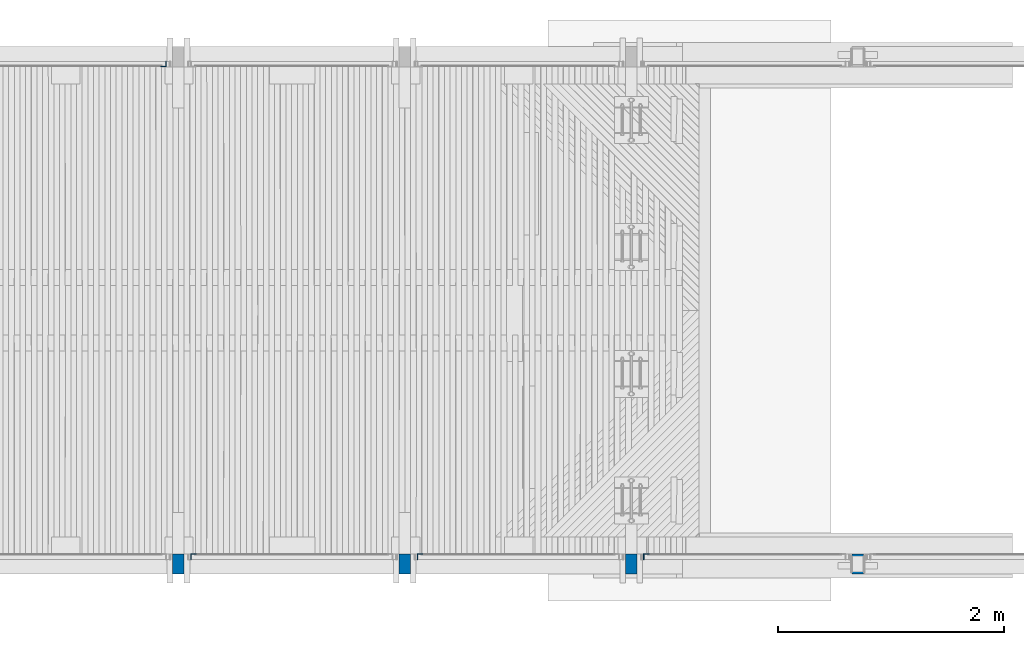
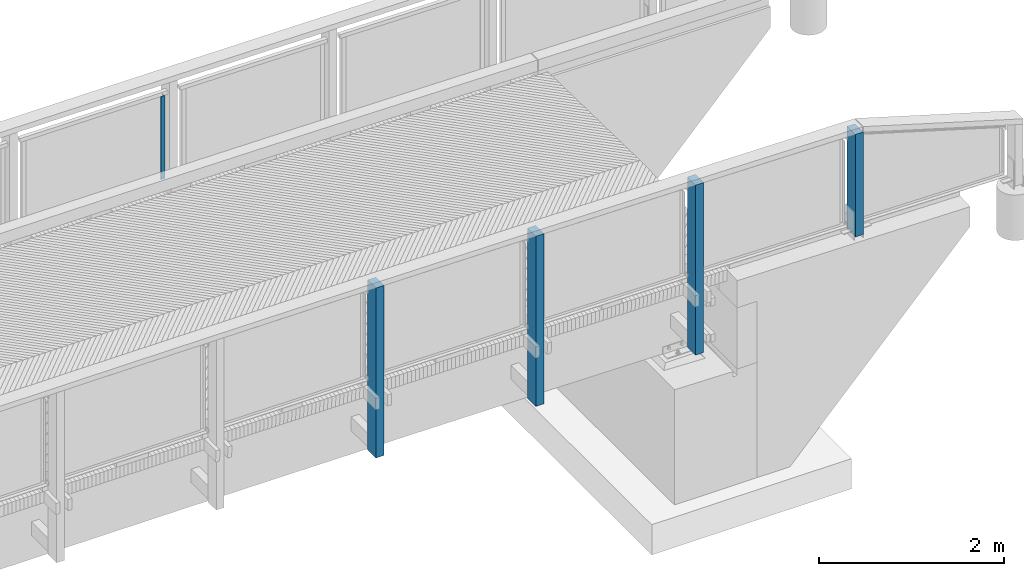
# One storey, part 10 of 65: 8 columns.
"""IFC2X3 building model written with IfcOpenShell, lengths in millimetres."""

import ifcopenshell
import ifcopenshell.guid

model = None  # the IFC model being written
_history = None  # IfcOwnerHistory: only IFC2X3 demands one
_inside = {}  # id of a spatial element -> (the spatial element, [elements in it])
_under = {}  # id of a project, library or spatial element -> (it, [spatial elements below it])
_declared = {}  # id of a project -> (the project, [libraries it declares])
_typed = {}  # id of a type object -> (the type object, [elements of that type])
_made_of = {}  # id of a material, layer set ... -> (it, [elements and type objects made of it])


def new_model(schema):
    """Start an empty IFC model of exactly this schema.

    Asked for "IFC4X3", IfcOpenShell would pick the latest addendum, in which some entities
    have other attributes; the version numbers below select the first issue.
    IFC2X3 requires an IfcOwnerHistory on every rooted entity: one is made here for all.
    """
    global model, _history
    if schema == "IFC4X3":
        model = ifcopenshell.file(schema_version=(4, 3, 0, 0))
    else:
        model = ifcopenshell.file(schema=schema)
    _inside.clear()
    _under.clear()
    _declared.clear()
    _typed.clear()
    _made_of.clear()
    _history = None
    if model.schema == "IFC2X3":
        org = make("IfcOrganization", Name="unknown")
        user = make(
            "IfcPersonAndOrganization",
            ThePerson=make("IfcPerson", FamilyName="unknown"),
            TheOrganization=org,
        )
        app = make(
            "IfcApplication",
            ApplicationDeveloper=org,
            Version="unknown",
            ApplicationFullName="unknown",
            ApplicationIdentifier="unknown",
        )
        _history = make(
            "IfcOwnerHistory",
            OwningUser=user,
            OwningApplication=app,
            ChangeAction="ADDED",
            CreationDate=0,
        )
    return model


def make(cls, **values):
    """One entity of the class cls with the attributes given. An attribute that is None is left unset."""
    return model.create_entity(
        cls, **{name: value for name, value in values.items() if value is not None}
    )


def rooted(cls, **values):
    """An entity with a GlobalId (a new one), such as an element, a storey or a relation."""
    return make(cls, GlobalId=ifcopenshell.guid.new(), OwnerHistory=_history, **values)


def si_unit(unit_type, name, prefix=None):
    """IfcSIUnit, for example si_unit("LENGTHUNIT", "METRE", prefix="MILLI")."""
    return make("IfcSIUnit", UnitType=unit_type, Prefix=prefix, Name=name)


def assignment(units):
    """IfcUnitAssignment: the units of a project."""
    return None if units is None else make("IfcUnitAssignment", Units=units)


def point(xyz):
    """IfcCartesianPoint."""
    return None if xyz is None else make("IfcCartesianPoint", Coordinates=xyz)


def direction(xyz):
    """IfcDirection."""
    return None if xyz is None else make("IfcDirection", DirectionRatios=xyz)


def frame(location, z_axis=None, x_axis=None):
    """IfcAxis2Placement3D, a coordinate frame: its origin and axes. An axis left out is left unset."""
    return make(
        "IfcAxis2Placement3D",
        Location=point(location),
        Axis=direction(z_axis),
        RefDirection=direction(x_axis),
    )


def origin_with_axes():
    """The frame at (0, 0, 0) with the z axis (0, 0, 1) and the x axis (1, 0, 0) written out."""
    return frame((0.0, 0.0, 0.0), z_axis=(0.0, 0.0, 1.0), x_axis=(1.0, 0.0, 0.0))


def place(relative_to, where):
    """IfcLocalPlacement: puts the frame where relative to a parent placement (None: the world)."""
    return make(
        "IfcLocalPlacement", PlacementRelTo=relative_to, RelativePlacement=where
    )


def context(
    kind, dimensions, precision=None, world=None, true_north=None, identifier=None
):
    """IfcGeometricRepresentationContext, for example the 3D "Model" context."""
    return make(
        "IfcGeometricRepresentationContext",
        ContextIdentifier=identifier,
        ContextType=kind,
        CoordinateSpaceDimension=dimensions,
        Precision=precision,
        WorldCoordinateSystem=world,
        TrueNorth=true_north,
    )


def subcontext(parent, identifier, kind, view, scale=None):
    """IfcGeometricRepresentationSubContext, for example "Body" below "Model"."""
    return make(
        "IfcGeometricRepresentationSubContext",
        ContextIdentifier=identifier,
        ContextType=kind,
        ParentContext=parent,
        TargetScale=scale,
        TargetView=view,
    )


def project(units=None, contexts=None):
    """IfcProject with its units and contexts."""
    return rooted(
        "IfcProject",
        Name="project",
        RepresentationContexts=contexts,
        UnitsInContext=assignment(units),
    )


def spatial(cls, under=None, at=None, **own):
    """A site, building, storey or space (cls), placed at a placement, below another one or the project."""
    s = rooted(cls, ObjectPlacement=at, **own)
    if under is not None:
        _under.setdefault(under.id(), (under, []))[1].append(s)
    return s


def faces_of(points, faces, orient=None, outer=None):
    """IfcFace entities. A face is a list of loops; a loop is a list of indices into points, from 0.

    orient and outer hold one flag for each loop. By default every Orientation is true, the
    first loop of a face is its IfcFaceOuterBound and the others are IfcFaceBound.
    """
    made = []
    for i, loops in enumerate(faces):
        bounds = []
        for j, loop in enumerate(loops):
            is_outer = j == 0 if outer is None else outer[i][j]
            bounds.append(
                make(
                    "IfcFaceOuterBound" if is_outer else "IfcFaceBound",
                    Bound=make("IfcPolyLoop", Polygon=[points[k] for k in loop]),
                    Orientation=True if orient is None else orient[i][j],
                )
            )
        made.append(make("IfcFace", Bounds=bounds))
    return made


def faceted_brep(points, faces, orient=None, outer=None, voids=None):
    """IfcFacetedBrep: a solid bounded by flat faces; with voids (closed shells), ...WithVoids."""
    shared = [point(p) for p in points]
    hull = make("IfcClosedShell", CfsFaces=faces_of(shared, faces, orient, outer))
    if voids is None:
        return make("IfcFacetedBrep", Outer=hull)
    return make(
        "IfcFacetedBrepWithVoids",
        Outer=hull,
        Voids=[
            make(cls, CfsFaces=faces_of(shared, fs, o, b)) for cls, fs, o, b in voids
        ],
    )


def shape(context_of_items, identifier, shape_type, items):
    """IfcShapeRepresentation: the items that make up one representation, for example the "Body"."""
    return make(
        "IfcShapeRepresentation",
        ContextOfItems=context_of_items,
        RepresentationIdentifier=identifier,
        RepresentationType=shape_type,
        Items=items,
    )


def material(Name=None, Category=None):
    """IfcMaterial."""
    return make("IfcMaterial", Name=Name, Category=Category)


def made_of(thing, what):
    """Note that an element or type object is made of a material, layer set ...; save() writes the relation."""
    if what is not None:
        _made_of.setdefault(what.id(), (what, []))[1].append(thing)
    return thing


def type_object(cls, material=None, **own):
    """A type object (cls), such as IfcWallType, which elements share."""
    return made_of(rooted(cls, **own), material)


def element(
    cls,
    number,
    at=None,
    inside=None,
    cuts=None,
    type_object=None,
    material=None,
    context=None,
    identifier="Body",
    shape_type=None,
    held_by="IfcProductDefinitionShape",
    body=None,
    shapes=None,
    **own,
):
    """One element of the class cls, such as IfcWall. Its Tag is "e" and its number.

    at: its placement. inside: the storey or other place that contains it. cuts: it is an
    opening in that element (IfcRelVoidsElement). A single representation is given by context,
    identifier, shape_type and body (its items); several are given by shapes. held_by: the class
    of the entity that holds the representations. save() writes the other relations.
    """
    e = rooted(cls, Tag="e%d" % number, ObjectPlacement=at, **own)
    if body is not None:
        shapes = [shape(context, identifier, shape_type, body)]
    if shapes is not None:
        e.Representation = make(held_by, Representations=shapes)
    if inside is not None:
        _inside.setdefault(inside.id(), (inside, []))[1].append(e)
    if cuts is not None:
        rooted(
            "IfcRelVoidsElement", RelatingBuildingElement=cuts, RelatedOpeningElement=e
        )
    if type_object is not None:
        _typed.setdefault(type_object.id(), (type_object, []))[1].append(e)
    return made_of(e, material)


def aggregate(whole, parts):
    """IfcRelAggregates: a whole, such as a stair, and the parts it consists of."""
    return rooted("IfcRelAggregates", RelatingObject=whole, RelatedObjects=parts)


def save(model, path):
    """Write the relations noted so far, then the file.

    IfcRelAggregates (storeys below a building ...), IfcRelContainedInSpatialStructure (elements
    in a storey), IfcRelDefinesByType, IfcRelAssociatesMaterial and IfcRelDeclares: one each for
    every whole, place, type object, material and project.
    """
    for whole, parts in _under.values():
        aggregate(whole, parts)
    for where, things in _inside.values():
        rooted(
            "IfcRelContainedInSpatialStructure",
            RelatedElements=things,
            RelatingStructure=where,
        )
    for kind, things in _typed.values():
        rooted("IfcRelDefinesByType", RelatedObjects=things, RelatingType=kind)
    for what, things in _made_of.values():
        rooted("IfcRelAssociatesMaterial", RelatedObjects=things, RelatingMaterial=what)
    for by, libraries in _declared.values():
        rooted("IfcRelDeclares", RelatingContext=by, RelatedDefinitions=libraries)
    model.write(path)


model = new_model("IFC2X3")

# Units and contexts
model_context = context("Model", 3, precision=1e-05, world=origin_with_axes())
body_context = subcontext(model_context, "Body", "Model", "MODEL_VIEW")
ifc_project = project(units=[si_unit("LENGTHUNIT", "METRE", prefix="MILLI"), si_unit("AREAUNIT", "SQUARE_METRE"), si_unit("VOLUMEUNIT", "CUBIC_METRE"), si_unit("MASSUNIT", "GRAM", prefix="KILO"), si_unit("TIMEUNIT", "SECOND"), si_unit("PLANEANGLEUNIT", "RADIAN"), si_unit("SOLIDANGLEUNIT", "STERADIAN"), si_unit("THERMODYNAMICTEMPERATUREUNIT", "DEGREE_CELSIUS"), si_unit("LUMINOUSINTENSITYUNIT", "LUMEN")], contexts=[model_context])

# Site, building, storey
site_placement = place(None, origin_with_axes())
site = spatial("IfcSite", under=ifc_project, at=site_placement, Name="Undefined", CompositionType="ELEMENT")
building_placement = place(site_placement, origin_with_axes())
building = spatial("IfcBuilding", under=site, at=building_placement, Name="Undefined", CompositionType="ELEMENT")
storey_placement = place(building_placement, origin_with_axes())
storey = spatial("IfcBuildingStorey", under=building, at=storey_placement, Name="Undefined", CompositionType="ELEMENT", Elevation=0.0)

# Columns
ifc_material_1 = material(Name="TIMBER/Timber_Undefined")
column_type_1 = type_object("IfcColumnType", Name="180*100", PredefinedType="NOTDEFINED")
column_1_placement = place(storey_placement, frame((17999.9999992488, 20125.0120919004, 3128.38000000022), z_axis=(0.0, 1.0, 0.0), x_axis=(0.0, 0.0, 1.0)))
element("IfcColumn", 1, at=column_1_placement, inside=storey, type_object=column_type_1, material=ifc_material_1, Name="KAIDEPYLVÄS", ObjectType="180*100", context=body_context, shape_type="Brep", body=[
    faceted_brep([(-5.71000000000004, 50.0, -90.0), (-5.71000000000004, 50.0, 90.0), (1351.21940355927, 50.0, 90.0), (1351.21940355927, 50.0, -90.0), (-5.71000000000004, -50.0, 90.0), (1352.87649222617, -50.0, 90.0), (-5.71000000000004, -50.0, -90.0), (1352.87649222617, -50.0, -90.0)], [[[0, 1, 2, 3]], [[1, 4, 5, 2]], [[4, 6, 7, 5]], [[6, 0, 3, 7]], [[5, 7, 3, 2]], [[6, 4, 1, 0]]]),
])
for number, where, z_axis, x_axis in (
    (2, (16000.0000678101, 20125.0120919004, 2260.26004297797), (0.0, 1.0, 0.0), (0.0, 0.0, 1.0)),
    (3, (14000.0000678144, 20125.0120919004, 2283.46176690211), (0.0, 1.0, 0.0), (0.0, 0.0, 1.0)),
    (4, (12000.0000678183, 20125.0120919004, 2300.03388065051), (0.0, 1.0, 0.0), (0.0, 0.0, 1.0)),
):
    element("IfcColumn", number, at=place(storey_placement, frame(where, z_axis=z_axis, x_axis=x_axis)), inside=storey, type_object=column_type_1, material=ifc_material_1, Name="KAIDEPYLVÄS", ObjectType="180*100", context=body_context, shape_type="Brep", body=[
        faceted_brep([(0.0, 50.0, -90.0), (0.0, 50.0, 90.0), (2250.0, 50.0, 90.0), (2250.0, 50.0, -90.0), (0.0, -50.0, 90.0), (2250.0, -50.0, 90.0), (0.0, -50.0, -90.0), (2250.0, -50.0, -90.0)], [[[0, 1, 2, 3]], [[1, 4, 5, 2]], [[4, 6, 7, 5]], [[6, 0, 3, 7]], [[5, 7, 3, 2]], [[6, 4, 1, 0]]]),
    ])
ifc_material_2 = material(Name="STEEL/S235JR")
column_type_2 = type_object("IfcColumnType", Name="L50*5", PredefinedType="NOTDEFINED")
column_2_placement = place(storey_placement, frame((11867.5024948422, 24539.9900000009, 3303.68520742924), z_axis=(0.0, 1.0, 0.0), x_axis=(0.0, 0.0, 1.0)))
element("IfcColumn", 5, at=column_2_placement, inside=storey, type_object=column_type_2, material=ifc_material_2, Name="BEAM", ObjectType="L50*5", context=body_context, shape_type="Brep", body=[
    faceted_brep([(0.0, 25.0, -25.0), (0.0, 25.0, 25.0), (1099.9997751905, 25.0, 25.0), (1099.9997751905, 25.0, -25.0), (0.0, 20.0, 25.0), (1099.9997751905, 20.0, 25.0), (0.0, 20.0, -20.0), (1099.9997751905, 20.0, -20.0), (0.0, -25.0, -20.0), (1099.9997751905, -25.0, -20.0), (0.0, -25.0, -25.0), (1099.9997751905, -25.0, -25.0)], [[[0, 1, 2, 3]], [[1, 4, 5, 2]], [[4, 6, 7, 5]], [[6, 8, 9, 7]], [[8, 10, 11, 9]], [[10, 0, 3, 11]], [[5, 7, 9, 11, 3, 2]], [[10, 8, 6, 4, 1, 0]]]),
])
column_3_placement = place(storey_placement, frame((16132.4988327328, 20190.01, 3261.77031022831), z_axis=(0.0, -1.0, 0.0), x_axis=(0.0, 0.0, 1.0)))
element("IfcColumn", 6, at=column_3_placement, inside=storey, type_object=column_type_2, material=ifc_material_2, Name="BEAM", ObjectType="L50*5", context=body_context, shape_type="Brep", body=[
    faceted_brep([(0.0, 25.0, -25.0), (0.0, 25.0, 25.0), (1099.99179593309, 25.0, 25.0), (1099.99179593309, 25.0, -25.0), (0.0, 20.0, 25.0), (1099.99179593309, 20.0, 25.0), (0.0, 20.0, -20.0), (1099.99179593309, 20.0, -20.0), (0.0, -25.0, -20.0), (1099.99179593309, -25.0, -20.0), (0.0, -25.0, -25.0), (1099.99179593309, -25.0, -25.0)], [[[0, 1, 2, 3]], [[1, 4, 5, 2]], [[4, 6, 7, 5]], [[6, 8, 9, 7]], [[8, 10, 11, 9]], [[10, 0, 3, 11]], [[5, 7, 9, 11, 3, 2]], [[10, 8, 6, 4, 1, 0]]]),
])
column_4_placement = place(storey_placement, frame((14132.4988327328, 20190.01, 3285.33183736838), z_axis=(0.0, -1.0, 0.0), x_axis=(0.0, 0.0, 1.0)))
element("IfcColumn", 7, at=column_4_placement, inside=storey, type_object=column_type_2, material=ifc_material_2, Name="BEAM", ObjectType="L50*5", context=body_context, shape_type="Brep", body=[
    faceted_brep([(0.0, 25.0, -25.0), (0.0, 25.0, 25.0), (1099.99156352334, 25.0, 25.0), (1099.99156352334, 25.0, -25.0), (0.0, 20.0, 25.0), (1099.99156352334, 20.0, 25.0), (0.0, 20.0, -20.0), (1099.99156352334, 20.0, -20.0), (0.0, -25.0, -20.0), (1099.99156352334, -25.0, -20.0), (0.0, -25.0, -25.0), (1099.99156352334, -25.0, -25.0)], [[[0, 1, 2, 3]], [[1, 4, 5, 2]], [[4, 6, 7, 5]], [[6, 8, 9, 7]], [[8, 10, 11, 9]], [[10, 0, 3, 11]], [[5, 7, 9, 11, 3, 2]], [[10, 8, 6, 4, 1, 0]]]),
])
column_5_placement = place(storey_placement, frame((12132.4988327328, 20190.01, 3302.25999506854), z_axis=(0.0, -1.0, 0.0), x_axis=(0.0, 0.0, 1.0)))
element("IfcColumn", 8, at=column_5_placement, inside=storey, type_object=column_type_2, material=ifc_material_2, Name="BEAM", ObjectType="L50*5", context=body_context, shape_type="Brep", body=[
    faceted_brep([(0.0, 25.0, -25.0), (0.0, 25.0, 25.0), (1099.9980148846, 25.0, 25.0), (1099.9980148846, 25.0, -25.0), (0.0, 20.0, 25.0), (1099.9980148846, 20.0, 25.0), (0.0, 20.0, -20.0), (1099.9980148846, 20.0, -20.0), (0.0, -25.0, -20.0), (1099.9980148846, -25.0, -20.0), (0.0, -25.0, -25.0), (1099.9980148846, -25.0, -25.0)], [[[0, 1, 2, 3]], [[1, 4, 5, 2]], [[4, 6, 7, 5]], [[6, 8, 9, 7]], [[8, 10, 11, 9]], [[10, 0, 3, 11]], [[5, 7, 9, 11, 3, 2]], [[10, 8, 6, 4, 1, 0]]]),
])

save(model, "model.ifc")
